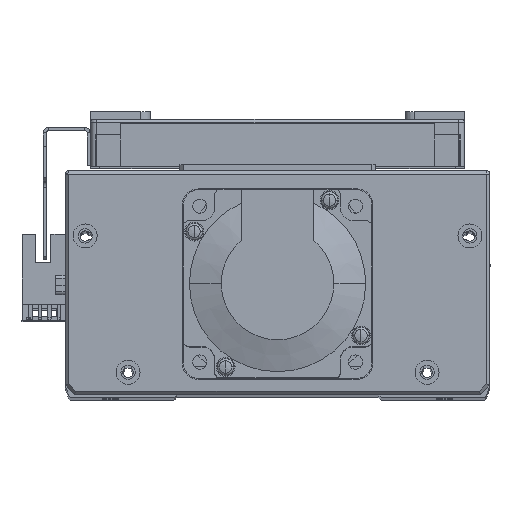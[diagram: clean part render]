
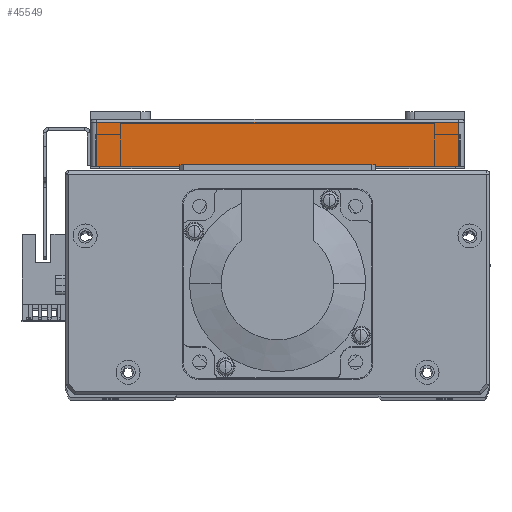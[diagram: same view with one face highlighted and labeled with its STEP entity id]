
A CAD part, top view. The second image highlights one B-rep face of the part: STEP entity #45549.
In plain terms, the highlighted planar face has unit normal (0, 0, 1) as drawn and (-1, 0, 0) by its records, which use the part's own axes.
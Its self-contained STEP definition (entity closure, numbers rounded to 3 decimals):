
#4018 = EDGE_CURVE ( 'NONE', #19455, #19436, #35016, .T. ) ;
#4029 = EDGE_CURVE ( 'NONE', #19436, #19409, #35023, .T. ) ;
#4060 = EDGE_CURVE ( 'NONE', #19409, #19641, #35120, .T. ) ;
#4086 = EDGE_CURVE ( 'NONE', #19641, #19455, #35118, .T. ) ;
#13493 = EDGE_LOOP ( 'NONE', ( #13998, #14033, #14041, #13992 ) ) ;
#13992 = ORIENTED_EDGE ( 'NONE', *, *, #4029, .T. ) ;
#13998 = ORIENTED_EDGE ( 'NONE', *, *, #4060, .T. ) ;
#14033 = ORIENTED_EDGE ( 'NONE', *, *, #4086, .T. ) ;
#14041 = ORIENTED_EDGE ( 'NONE', *, *, #4018, .T. ) ;
#19120 = PLANE ( 'NONE',  #22614 ) ;
#19122 = DIRECTION ( 'NONE',  ( 0., 0., -1. ) ) ;
#19139 = CARTESIAN_POINT ( 'NONE',  ( -95., 15., -59.5 ) ) ;
#19151 = DIRECTION ( 'NONE',  ( 1., 0., 0. ) ) ;
#19409 = VERTEX_POINT ( 'NONE', #27910 ) ;
#19436 = VERTEX_POINT ( 'NONE', #27948 ) ;
#19455 = VERTEX_POINT ( 'NONE', #27942 ) ;
#19641 = VERTEX_POINT ( 'NONE', #27989 ) ;
#22614 = AXIS2_PLACEMENT_3D ( 'NONE', #19139, #19151, #19122 ) ;
#24482 = FACE_OUTER_BOUND ( 'NONE', #13493, .T. ) ;
#27910 = CARTESIAN_POINT ( 'NONE',  ( -95., 0., 57.5 ) ) ;
#27942 = CARTESIAN_POINT ( 'NONE',  ( -95., 14., -57.5 ) ) ;
#27948 = CARTESIAN_POINT ( 'NONE',  ( -95., 0., -57.5 ) ) ;
#27989 = CARTESIAN_POINT ( 'NONE',  ( -95., 14., 57.5 ) ) ;
#35016 = LINE ( 'NONE', #42350, #35024 ) ;
#35023 = LINE ( 'NONE', #42428, #35062 ) ;
#35024 = VECTOR ( 'NONE', #42398, 1000. ) ;
#35062 = VECTOR ( 'NONE', #42504, 1000. ) ;
#35118 = LINE ( 'NONE', #42690, #35122 ) ;
#35120 = LINE ( 'NONE', #42654, #35127 ) ;
#35122 = VECTOR ( 'NONE', #42710, 1000. ) ;
#35127 = VECTOR ( 'NONE', #42599, 1000. ) ;
#42350 = CARTESIAN_POINT ( 'NONE',  ( -95., 15., -57.5 ) ) ;
#42398 = DIRECTION ( 'NONE',  ( 0., -1., 0. ) ) ;
#42428 = CARTESIAN_POINT ( 'NONE',  ( -95., 0., -59.5 ) ) ;
#42504 = DIRECTION ( 'NONE',  ( 0., 0., 1. ) ) ;
#42599 = DIRECTION ( 'NONE',  ( 0., 1., 0. ) ) ;
#42654 = CARTESIAN_POINT ( 'NONE',  ( -95., 15., 57.5 ) ) ;
#42690 = CARTESIAN_POINT ( 'NONE',  ( -95., 14., -57.5 ) ) ;
#42710 = DIRECTION ( 'NONE',  ( 0., 0., -1. ) ) ;
#45549 = ADVANCED_FACE ( 'NONE', ( #24482 ), #19120, .F. ) ;
